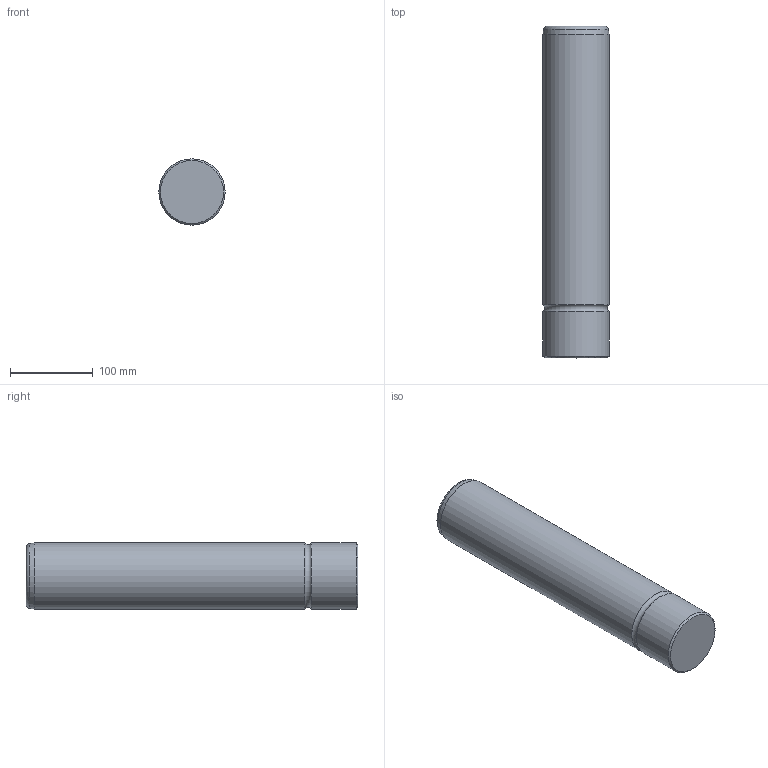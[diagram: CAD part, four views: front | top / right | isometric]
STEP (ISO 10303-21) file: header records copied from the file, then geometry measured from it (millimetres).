
FILE_DESCRIPTION( ( 'STEP AP203' ), '1' );
FILE_NAME( 'D:/Cuma/23 02 2009/D10 Serisi/D10_80400.step', '2002-12-31T22:53:25', ( ' ' ), ( ' ' ), 'XStep 1.0', ' ', ' ' );
FILE_SCHEMA( ( 'CONFIG_CONTROL_DESIGN' ) );
Length unit declared in the file: metre
Products named in the file (1): 1
Bounding box: 80 x 400 x 80 mm (x, y, z)
Volume: 2003604.6 mm3; surface area: 109872.8 mm2
Topology: 1 solids, 1 shells, 8 faces, 13 edges, 7 vertices
Faces by surface type: plane 2, torus 2, cone 2, cylinder 2
Full cylindrical faces by diameter (mm): 80 x2
Entity records: 199 total; most frequent: DIRECTION 32, CARTESIAN_POINT 23, AXIS2_PLACEMENT_3D 16, EDGE_LOOP 14, ORIENTED_EDGE 14, FACE_OUTER_BOUND 12, ADVANCED_FACE 8, EDGE_CURVE 7
